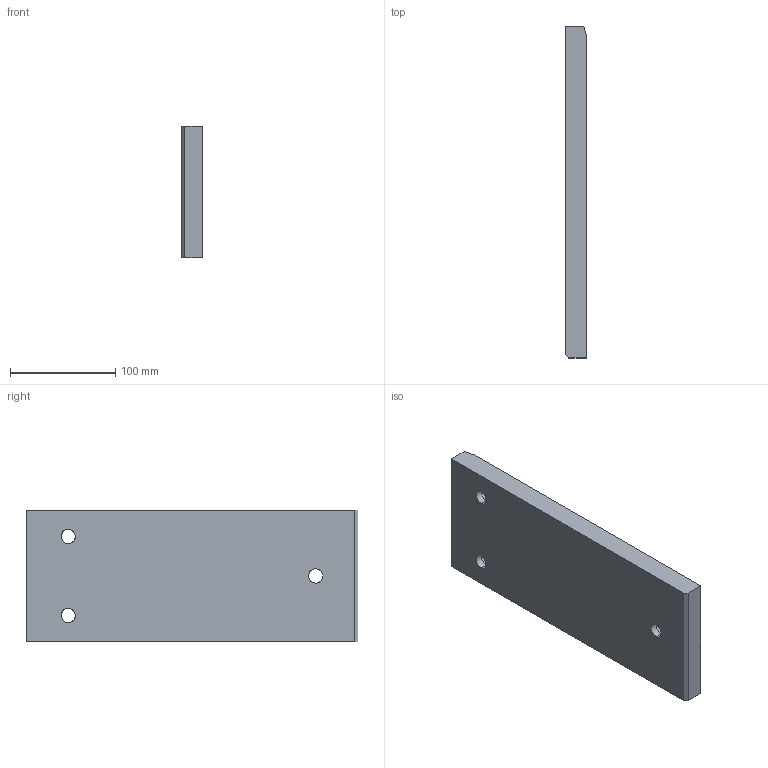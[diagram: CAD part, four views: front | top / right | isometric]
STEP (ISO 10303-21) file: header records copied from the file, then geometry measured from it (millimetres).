
FILE_DESCRIPTION(('CATIA V5 STEP Exchange'),'2;1');
FILE_NAME('C:\Users\borellobunino\Desktop\3D X SITO CF\A915\GSB_OILLESS_G22501125315\STEP-2.03\A915-125X315.stp','2019-07-14T14:04:18+00:00',('none'),('none'),'CATIA Version 5 Release 20 GA (IN-10)','CATIA V5 STEP AP203','none');
FILE_SCHEMA(('CONFIG_CONTROL_DESIGN'));
Length unit declared in the file: millimetre
Products named in the file (1): A915-125X315
Bounding box: 20 x 315 x 125 mm (x, y, z)
Volume: 769613.9 mm3; surface area: 98054.3 mm2
Topology: 1 solids, 1 shells, 30 faces, 99 edges, 74 vertices
Faces by surface type: cylinder 13, plane 11, torus 6
Entity records: 1437 total; most frequent: CARTESIAN_POINT 540, ORIENTED_EDGE 198, DIRECTION 135, EDGE_CURVE 99, AXIS2_PLACEMENT_3D 75, VERTEX_POINT 74, CIRCLE 44, EDGE_LOOP 39
